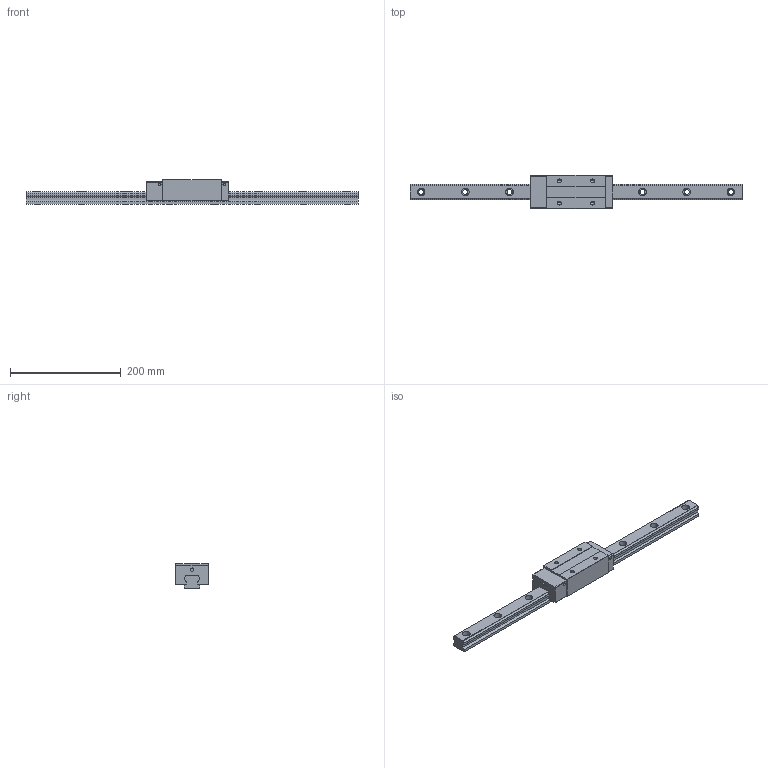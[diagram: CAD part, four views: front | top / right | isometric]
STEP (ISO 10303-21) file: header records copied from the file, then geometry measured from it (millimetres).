
FILE_DESCRIPTION (( 'STEP AP203' ), '1' );
FILE_NAME ('TRH30VE-BN.STEP', '2024-07-10T03:52:52', ( '' ), ( '' ), 'SwSTEP 2.0', 'SolidWorks 2022', '' );
FILE_SCHEMA (( 'CONFIG_CONTROL_DESIGN' ));
Length unit declared in the file: millimetre
Products named in the file (1): TRH30VE-BN
Bounding box: 600 x 60 x 45 mm (x, y, z)
Volume: 585689.2 mm3; surface area: 109460.9 mm2
Topology: 2 solids, 2 shells, 186 faces, 488 edges, 316 vertices
Faces by surface type: cylinder 88, plane 82, cone 16
Entity records: 5819 total; most frequent: DIRECTION 1038, CARTESIAN_POINT 983, ORIENTED_EDGE 960, EDGE_CURVE 480, AXIS2_PLACEMENT_3D 371, VERTEX_POINT 316, VECTOR 296, LINE 296
